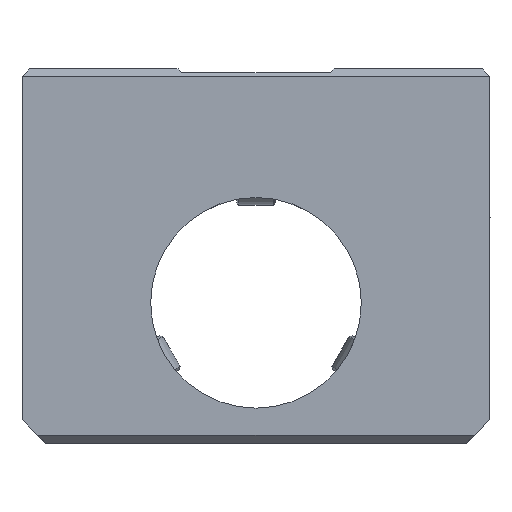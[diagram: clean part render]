
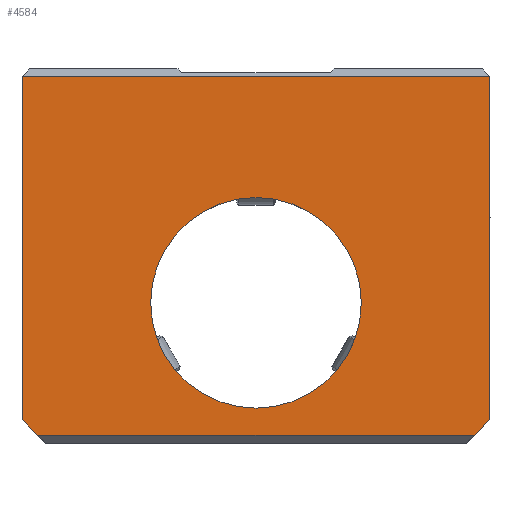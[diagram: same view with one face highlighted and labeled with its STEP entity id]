
A CAD part, left-side view. The second image highlights one B-rep face of the part: STEP entity #4584.
In plain terms, the highlighted planar face has unit normal (-1, 0, 0).
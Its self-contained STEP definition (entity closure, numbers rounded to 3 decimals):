
#3659=CARTESIAN_POINT('',(-35.0,-30.0,29.));
#3660=VERTEX_POINT('',#3659);
#3669=CARTESIAN_POINT('',(-35.0,-30.0,-15.));
#3670=VERTEX_POINT('',#3669);
#3671=CARTESIAN_POINT('',(-35.0,-30.0,29.));
#3672=DIRECTION('',(0.0,0.0,-1.0));
#3673=VECTOR('',#3672,44.0);
#3674=LINE('',#3671,#3673);
#3675=EDGE_CURVE('',#3660,#3670,#3674,.T.);
#4377=CARTESIAN_POINT('',(-35.0,30.0,29.));
#4378=VERTEX_POINT('',#4377);
#4385=CARTESIAN_POINT('',(-35.0,30.0,29.));
#4386=DIRECTION('',(0.0,-1.0,0.0));
#4387=VECTOR('',#4386,60.0);
#4388=LINE('',#4385,#4387);
#4389=EDGE_CURVE('',#4378,#3660,#4388,.T.);
#4506=CARTESIAN_POINT('',(-35.0,-28.,-17.));
#4507=VERTEX_POINT('',#4506);
#4508=CARTESIAN_POINT('',(-35.0,-30.0,-15.));
#4509=DIRECTION('',(0.0,0.707,-0.707));
#4510=VECTOR('',#4509,2.828);
#4511=LINE('',#4508,#4510);
#4512=EDGE_CURVE('',#3670,#4507,#4511,.T.);
#4529=CARTESIAN_POINT('',(-35.0,28.,-17.));
#4530=VERTEX_POINT('',#4529);
#4539=CARTESIAN_POINT('',(-35.0,-28.,-17.));
#4540=DIRECTION('',(0.0,1.0,0.0));
#4541=VECTOR('',#4540,56.);
#4542=LINE('',#4539,#4541);
#4543=EDGE_CURVE('',#4507,#4530,#4542,.T.);
#4548=CARTESIAN_POINT('',(-35.0,-20.,29.75));
#4549=DIRECTION('',(1.0,0.0,0.0));
#4550=DIRECTION('',(0.0,0.0,-1.0));
#4551=AXIS2_PLACEMENT_3D('',#4548,#4549,#4550);
#4552=PLANE('',#4551);
#4553=ORIENTED_EDGE('',*,*,#4543,.F.);
#4554=ORIENTED_EDGE('',*,*,#4512,.F.);
#4555=ORIENTED_EDGE('',*,*,#3675,.F.);
#4556=ORIENTED_EDGE('',*,*,#4389,.F.);
#4557=CARTESIAN_POINT('',(-35.0,30.0,-15.));
#4558=VERTEX_POINT('',#4557);
#4559=CARTESIAN_POINT('',(-35.0,30.0,-15.));
#4560=DIRECTION('',(0.0,0.0,1.0));
#4561=VECTOR('',#4560,44.0);
#4562=LINE('',#4559,#4561);
#4563=EDGE_CURVE('',#4558,#4378,#4562,.T.);
#4564=ORIENTED_EDGE('',*,*,#4563,.F.);
#4565=CARTESIAN_POINT('',(-35.0,28.,-17.));
#4566=DIRECTION('',(0.0,0.707,0.707));
#4567=VECTOR('',#4566,2.828);
#4568=LINE('',#4565,#4567);
#4569=EDGE_CURVE('',#4530,#4558,#4568,.T.);
#4570=ORIENTED_EDGE('',*,*,#4569,.F.);
#4571=EDGE_LOOP('',(#4553,#4554,#4555,#4556,#4564,#4570));
#4572=FACE_OUTER_BOUND('',#4571,.T.);
#4573=CARTESIAN_POINT('',(-35.0,13.5,0.));
#4574=VERTEX_POINT('',#4573);
#4575=CARTESIAN_POINT('',(-35.0,0.0,0.0));
#4576=DIRECTION('',(1.0,0.0,0.0));
#4577=DIRECTION('',(0.0,-1.0,0.0));
#4578=AXIS2_PLACEMENT_3D('',#4575,#4576,#4577);
#4579=CIRCLE('',#4578,13.5);
#4580=EDGE_CURVE('',#4574,#4574,#4579,.T.);
#4581=ORIENTED_EDGE('',*,*,#4580,.T.);
#4582=EDGE_LOOP('',(#4581));
#4583=FACE_BOUND('',#4582,.T.);
#4584=ADVANCED_FACE('',(#4572,#4583),#4552,.F.);
